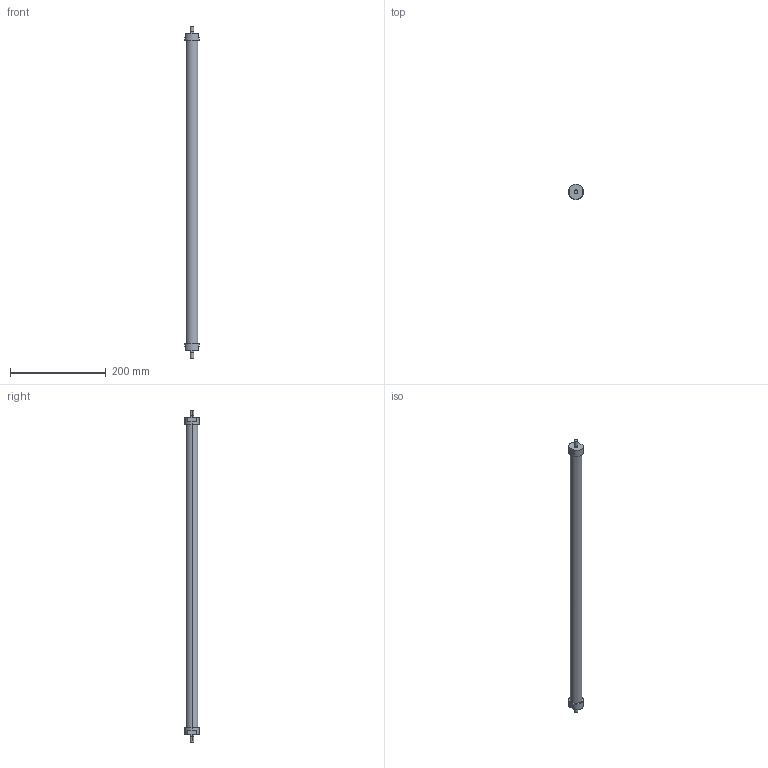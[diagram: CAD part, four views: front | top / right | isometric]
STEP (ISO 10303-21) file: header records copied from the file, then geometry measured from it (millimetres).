
FILE_DESCRIPTION(('STEP AP214'),'1');
FILE_NAME('ETT-R050N674.stp','2015-02-02T15:43:30',(' '),(' '),'Spatial InterOp 3D',' ',' ');
FILE_SCHEMA(('automotive_design'));
Length unit declared in the file: metre
Products named in the file (3): 1; 2; 3
Bounding box: 31 x 31 x 694 mm (x, y, z)
Volume: 334220 mm3; surface area: 56021.6 mm2
Topology: 1 solids, 7 shells, 30 faces, 81 edges, 63 vertices
Faces by surface type: plane 16, cylinder 14
Entity records: 1295 total; most frequent: DIRECTION 194, CARTESIAN_POINT 177, ORIENTED_EDGE 138, EDGE_CURVE 81, AXIS2_PLACEMENT_3D 80, VERTEX_POINT 63, CIRCLE 47, EDGE_LOOP 36
